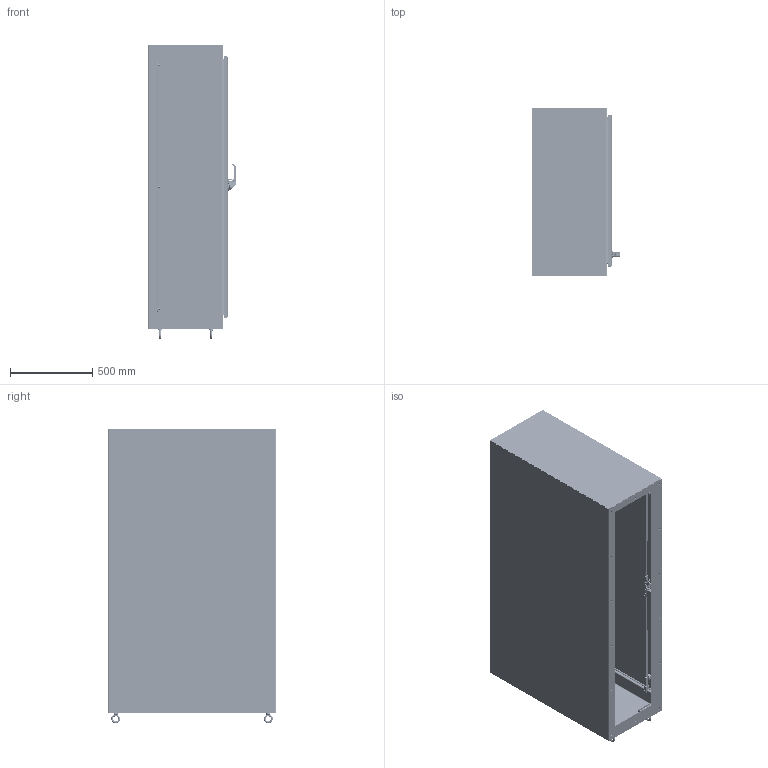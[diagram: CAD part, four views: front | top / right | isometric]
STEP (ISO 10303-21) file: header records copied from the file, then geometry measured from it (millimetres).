
FILE_DESCRIPTION((''),'2;1');
FILE_NAME('MODEL-461_ASM','2026-04-17T14:27:37',('richards'),('SAGINAW CONTROL & ENGINEERING'),'CREO PARAMETRIC BY PTC INC, 2021284','CREO PARAMETRIC BY PTC INC, 2021284','');
FILE_SCHEMA(('AUTOMOTIVE_DESIGN { 1 0 10303 214 1 1 1 1 }'));
Length unit declared in the file: inch
Products named in the file (80): MODEL-461-L-SD; MODEL-461-TP; MODEL-461-R-SD; MODEL-461-BTM; MODEL-461-DR; 100837; 100957_SCREW_MTG; 100957_PADLOCK_CATCH; 100957_SCREW_LARGE; 100957_INSERT_SHAFT; 100957_INSERT_PH; 100957_GASKET; 100957_O-RING; 100957_BASE; 100957_SPRING; 100957_HANDLE; 100957_CAM_SHAFT; 100957_HANDLE_ASM; 100957_CAM_ADAPTER; 100957_EARTH_NUT; 100957_FLANGE_NUT; 100957_CAM_NUT; 100957_ASM; 102237; 100030; 102237_ASM; MODEL-461-ROD-UPR; 128146; 128145; 128144; 102482; MODEL-461-ROD-UPR_ASM; 128143; 100882; 112504; MODEL-461-ROD-LWR; MODEL-461-ROD-LWR_ASM; MODEL-461-PR-GSKT; 128258; 128258_ASM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
Assembly tree (149 placements, depth 5):
  MODEL-461_ASM
    MODEL-461-L-SD
    MODEL-461-TP
    MODEL-461-R-SD
    MODEL-461-BTM
    MODEL-461-DOOR-ASSY_ASM
      MODEL-461-DR
      100837  x3
      100957_ASM
        100957_SCREW_MTG
        100957_PADLOCK_CATCH
        100957_SCREW_LARGE  x2
        100957_INSERT_SHAFT
        100957_INSERT_PH
        100957_GASKET
        100957_O-RING
        100957_BASE
        100957_SPRING
        100957_HANDLE_ASM
          100957_HANDLE
          100957_CAM_SHAFT
        100957_CAM_ADAPTER
        100957_EARTH_NUT
        100957_FLANGE_NUT
        100957_CAM_NUT
      102237_ASM
        102237
        100030  x2
      MODEL-461-ROD-UPR_ASM
        MODEL-461-ROD-UPR
        128146
        128145
        128144
        102482  x2
      128143  x2
      100882  x10
      112504  x2
      MODEL-461-ROD-LWR_ASM
        MODEL-461-ROD-LWR
        128146
        128145
        128144
        102482  x2
      MODEL-461-PR-GSKT
      128258_ASM  x4
        128258
      126395  x4
      102483  x4
      101383_ASM  x4
        101383
        101383-STUD
      101221  x4
      125597
    MODEL-461-BCK
    100837  x6
    101653  x8
    102245  x2
    121454
    MODEL-461-BB  x3
    130514  x4
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Bounding box: 535.27 x 1022.35 x 1788.36 mm (x, y, z)
Volume: 21783521.1 mm3; surface area: 15712073.5 mm2
Topology: 154 solids, 154 shells, 15755 faces, 39831 edges, 24470 vertices
Faces by surface type: plane 5232, cylinder 4406, bspline 3295, torus 1378, cone 667, sphere 482, extrusion 295
Entity records: 547885 total; most frequent: CARTESIAN_POINT 262655, ORIENTED_EDGE 44452, DIRECTION 40629, PRESENTATION_STYLE_ASSIGNMENT 22295, STYLED_ITEM 22265, EDGE_CURVE 22226, CURVE_STYLE 22178, AXIS2_PLACEMENT_3D 15082
